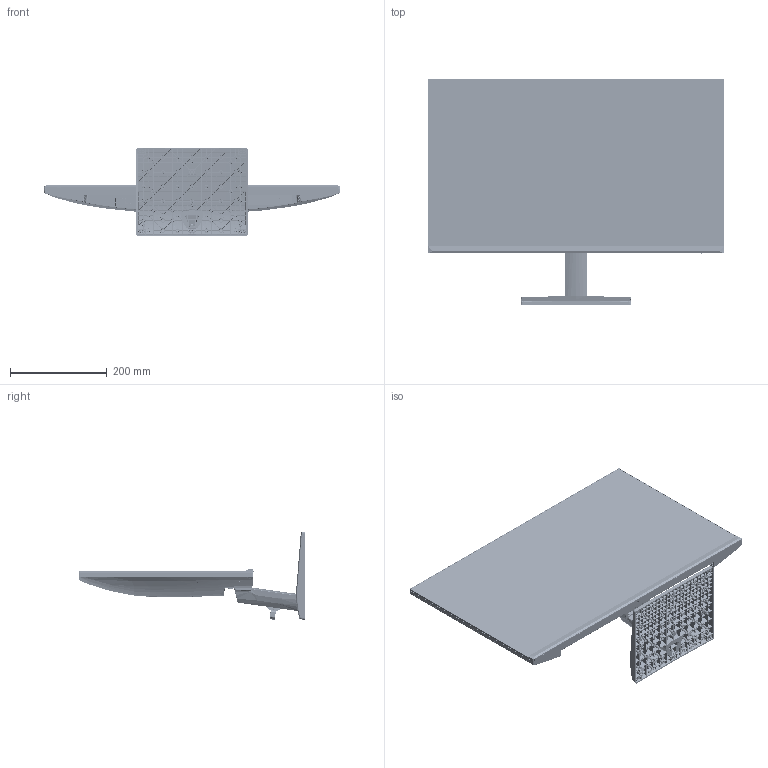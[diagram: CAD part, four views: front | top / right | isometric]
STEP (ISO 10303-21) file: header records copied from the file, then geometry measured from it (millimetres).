
FILE_DESCRIPTION(/* description */ (''),/* implementation_level */ '2;1');
FILE_NAME(/* name */ 'NF270-B01_ZH09_+线扣-带电源.stp',/* time_stamp */ '2026-04-14T18:51:23+08:00',/* author */ (''),/* organization */ (''),/* preprocessor_version */ 'ST-DEVELOPER v20',/* originating_system */ 'SIEMENS PLM Software NX2412.1700',/* authorisation */ '');
FILE_SCHEMA (('AP203_CONFIGURATION_CONTROLLED_3D_DESIGN_OF_MECHANICAL_PARTS_AND_ASSEMBLIES_MIM_LF { 1 0 10303 403 2 1 2}'));
Products named in the file (1): NF270-B01_ZH09_+线扣-26041301_stp_objects
Bounding box: 612.41 x 469.36 x 183.29 mm (x, y, z)
Volume: 1567928.1 mm3; surface area: 2099217.4 mm2
Topology: 19 solids, 20 shells, 13112 faces, 36809 edges, 24246 vertices
Faces by surface type: plane 7123, cylinder 4498, bspline 761, cone 303, torus 161, extrusion 152, sphere 114
Full cylindrical faces by diameter (mm): 1.2 x86, 1.5 x5, 1.8 x1, 2.488 x2, 2.499 x4, 2.5 x34, 2.999 x9, 3.3 x4, 3.4 x7, 3.5 x29, 3.6 x9, 3.699 x4, 3.8 x6, 4 x2, 4.1 x3, 4.2 x6, 4.5 x6, 4.6 x3, 5 x24, 5.5 x58, 6 x16, 6.3 x1, 7 x2, 8 x2, 10.112 x1, 10.199 x1, 10.3 x15, 11 x1, 12.8 x15
Entity records: 548120 total; most frequent: CARTESIAN_POINT 199175, ORIENTED_EDGE 72156, DIRECTION 52637, EDGE_CURVE 36078, VERTEX_POINT 23974, AXIS2_PLACEMENT_3D 17577, VECTOR 17483, LINE 17331
